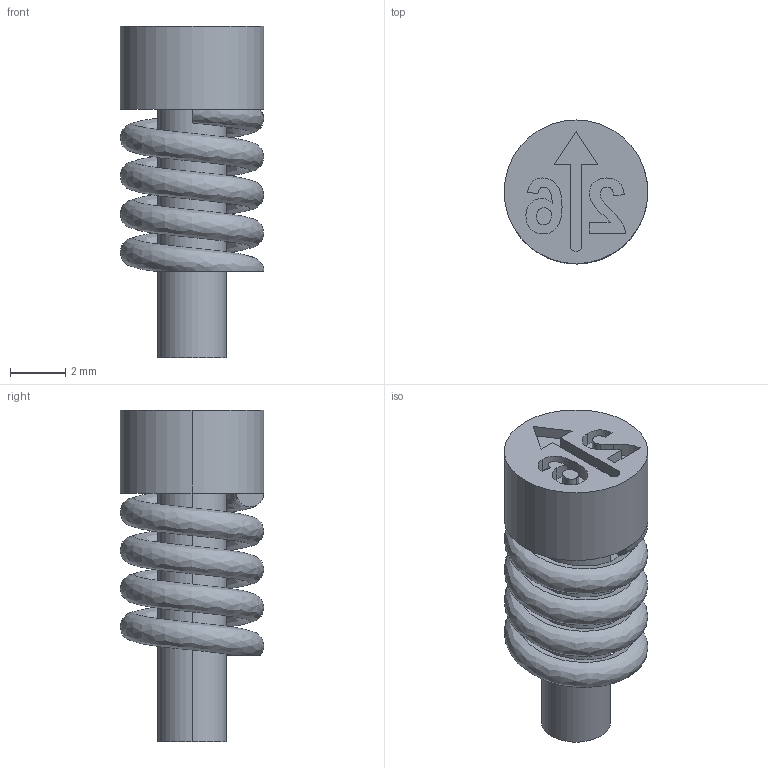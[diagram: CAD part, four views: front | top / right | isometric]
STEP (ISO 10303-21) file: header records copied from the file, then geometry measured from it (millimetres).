
FILE_DESCRIPTION (( 'STEP AP203' ), '1' );
FILE_NAME ('DCP10D-26.step', '2025-04-11T22:15:44', ( '' ), ( '' ), 'SwSTEP 2.0', 'SolidWorks 2023', '' );
FILE_SCHEMA (( 'CONFIG_CONTROL_DESIGN' ));
Length unit declared in the file: millimetre
Products named in the file (1): DCP10D-26
Bounding box: 5.2 x 5.2 x 12 mm (x, y, z)
Volume: 147.9 mm3; surface area: 350.8 mm2
Topology: 2 solids, 2 shells, 50 faces, 123 edges, 82 vertices
Faces by surface type: bspline 23, plane 22, cylinder 5
Entity records: 3788 total; most frequent: CARTESIAN_POINT 2677, ORIENTED_EDGE 246, DIRECTION 145, EDGE_CURVE 123, VERTEX_POINT 82, VECTOR 61, LINE 61, EDGE_LOOP 55
